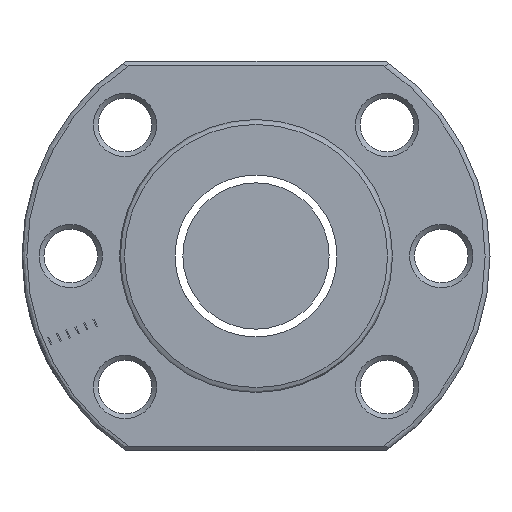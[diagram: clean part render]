
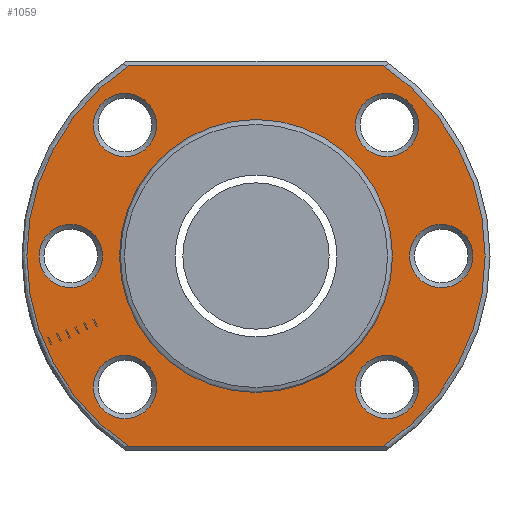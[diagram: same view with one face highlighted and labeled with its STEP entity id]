
A CAD part, left-side view. The second image highlights one B-rep face of the part: STEP entity #1059.
In plain terms, the highlighted planar face has unit normal (-1, 0, 0).
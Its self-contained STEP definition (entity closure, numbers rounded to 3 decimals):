
#19 = FACE_BOUND ( 'NONE', #1472, .T. ) ;
#69 = CARTESIAN_POINT ( 'NONE',  ( -54., 24., -19.5 ) ) ;
#76 = CARTESIAN_POINT ( 'NONE',  ( -54., 24., 19.5 ) ) ;
#84 = DIRECTION ( 'NONE',  ( 1., 0., 0. ) ) ;
#85 = DIRECTION ( 'NONE',  ( 1., 0., 0. ) ) ;
#105 = AXIS2_PLACEMENT_3D ( 'NONE', #2020, #801, #112 ) ;
#112 = DIRECTION ( 'NONE',  ( 0., 0., 1. ) ) ;
#214 = EDGE_CURVE ( 'NONE', #1115, #1213, #313, .T. ) ;
#271 = EDGE_CURVE ( 'NONE', #1978, #1978, #1612, .T. ) ;
#303 = CIRCLE ( 'NONE', #1824, 3.25 ) ;
#313 = LINE ( 'NONE', #76, #1356 ) ;
#350 = VERTEX_POINT ( 'NONE', #2100 ) ;
#367 = CARTESIAN_POINT ( 'NONE',  ( -54., 13.435, -10.185 ) ) ;
#482 = ORIENTED_EDGE ( 'NONE', *, *, #271, .T. ) ;
#502 = AXIS2_PLACEMENT_3D ( 'NONE', #2965, #520, #533 ) ;
#507 = FACE_BOUND ( 'NONE', #1380, .T. ) ;
#520 = DIRECTION ( 'NONE',  ( -1., 0., 0. ) ) ;
#533 = DIRECTION ( 'NONE',  ( 0., 0., 1. ) ) ;
#535 = EDGE_CURVE ( 'NONE', #545, #2140, #2259, .T. ) ;
#541 = DIRECTION ( 'NONE',  ( 1., 0., 0. ) ) ;
#545 = VERTEX_POINT ( 'NONE', #1718 ) ;
#555 = CARTESIAN_POINT ( 'NONE',  ( -54., -19., 0. ) ) ;
#615 = VERTEX_POINT ( 'NONE', #2039 ) ;
#652 = ORIENTED_EDGE ( 'NONE', *, *, #2919, .T. ) ;
#730 = EDGE_CURVE ( 'NONE', #1765, #1765, #2730, .T. ) ;
#756 = EDGE_LOOP ( 'NONE', ( #2323 ) ) ;
#800 = FACE_BOUND ( 'NONE', #2604, .T. ) ;
#801 = DIRECTION ( 'NONE',  ( -1., 0., 0. ) ) ;
#830 = CARTESIAN_POINT ( 'NONE',  ( -54., 19., 0. ) ) ;
#836 = CARTESIAN_POINT ( 'NONE',  ( -54., -13.435, 16.685 ) ) ;
#852 = VERTEX_POINT ( 'NONE', #2552 ) ;
#1011 = CIRCLE ( 'NONE', #2382, 3.25 ) ;
#1014 = AXIS2_PLACEMENT_3D ( 'NONE', #1239, #84, #2023 ) ;
#1039 = DIRECTION ( 'NONE',  ( 0., 1., 0. ) ) ;
#1059 = ADVANCED_FACE ( 'NONE', ( #19, #1779, #507, #2226, #2724, #800, #1235, #1224 ), #1253, .T. ) ;
#1110 = AXIS2_PLACEMENT_3D ( 'NONE', #1242, #541, #1499 ) ;
#1115 = VERTEX_POINT ( 'NONE', #1523 ) ;
#1158 = CIRCLE ( 'NONE', #2937, 23.5 ) ;
#1181 = EDGE_LOOP ( 'NONE', ( #1646, #1862, #2359, #2240 ) ) ;
#1202 = EDGE_CURVE ( 'NONE', #852, #852, #303, .T. ) ;
#1213 = VERTEX_POINT ( 'NONE', #2710 ) ;
#1224 = FACE_OUTER_BOUND ( 'NONE', #1181, .T. ) ;
#1235 = FACE_BOUND ( 'NONE', #2878, .T. ) ;
#1239 = CARTESIAN_POINT ( 'NONE',  ( -54., -13.435, 13.435 ) ) ;
#1242 = CARTESIAN_POINT ( 'NONE',  ( -54., 0., 0. ) ) ;
#1246 = ORIENTED_EDGE ( 'NONE', *, *, #1664, .T. ) ;
#1253 = PLANE ( 'NONE',  #502 ) ;
#1293 = DIRECTION ( 'NONE',  ( 0., 0., 1. ) ) ;
#1298 = DIRECTION ( 'NONE',  ( 0., 0., 1. ) ) ;
#1320 = CARTESIAN_POINT ( 'NONE',  ( -54., -13.115, -19.5 ) ) ;
#1328 = DIRECTION ( 'NONE',  ( 0., 0., 1. ) ) ;
#1353 = CARTESIAN_POINT ( 'NONE',  ( -54., 0., 0. ) ) ;
#1356 = VECTOR ( 'NONE', #1039, 1000. ) ;
#1380 = EDGE_LOOP ( 'NONE', ( #652 ) ) ;
#1409 = CIRCLE ( 'NONE', #1473, 3.25 ) ;
#1419 = CIRCLE ( 'NONE', #1014, 3.25 ) ;
#1450 = ORIENTED_EDGE ( 'NONE', *, *, #1202, .T. ) ;
#1472 = EDGE_LOOP ( 'NONE', ( #2266 ) ) ;
#1473 = AXIS2_PLACEMENT_3D ( 'NONE', #3055, #1761, #1298 ) ;
#1499 = DIRECTION ( 'NONE',  ( 0., 0., -1. ) ) ;
#1523 = CARTESIAN_POINT ( 'NONE',  ( -54., -13.115, 19.5 ) ) ;
#1534 = DIRECTION ( 'NONE',  ( 1., 0., 0. ) ) ;
#1564 = CIRCLE ( 'NONE', #105, 23.5 ) ;
#1575 = EDGE_CURVE ( 'NONE', #1213, #545, #1158, .T. ) ;
#1606 = EDGE_LOOP ( 'NONE', ( #1450 ) ) ;
#1612 = CIRCLE ( 'NONE', #1771, 3.25 ) ;
#1646 = ORIENTED_EDGE ( 'NONE', *, *, #1575, .T. ) ;
#1664 = EDGE_CURVE ( 'NONE', #350, #350, #1726, .T. ) ;
#1718 = CARTESIAN_POINT ( 'NONE',  ( -54., 13.115, -19.5 ) ) ;
#1726 = CIRCLE ( 'NONE', #1110, 14. ) ;
#1761 = DIRECTION ( 'NONE',  ( 1., 0., 0. ) ) ;
#1765 = VERTEX_POINT ( 'NONE', #367 ) ;
#1771 = AXIS2_PLACEMENT_3D ( 'NONE', #830, #1534, #1293 ) ;
#1779 = FACE_BOUND ( 'NONE', #756, .T. ) ;
#1783 = CARTESIAN_POINT ( 'NONE',  ( -54., -13.435, -10.185 ) ) ;
#1792 = DIRECTION ( 'NONE',  ( 0., 0., 1. ) ) ;
#1794 = CARTESIAN_POINT ( 'NONE',  ( -54., 13.435, -13.435 ) ) ;
#1807 = DIRECTION ( 'NONE',  ( -1., 0., 0. ) ) ;
#1824 = AXIS2_PLACEMENT_3D ( 'NONE', #2199, #2491, #2210 ) ;
#1862 = ORIENTED_EDGE ( 'NONE', *, *, #535, .T. ) ;
#1978 = VERTEX_POINT ( 'NONE', #2941 ) ;
#2020 = CARTESIAN_POINT ( 'NONE',  ( -54., 0., 0. ) ) ;
#2023 = DIRECTION ( 'NONE',  ( 0., 0., 1. ) ) ;
#2039 = CARTESIAN_POINT ( 'NONE',  ( -54., -19., 3.25 ) ) ;
#2067 = VERTEX_POINT ( 'NONE', #836 ) ;
#2100 = CARTESIAN_POINT ( 'NONE',  ( -54., 0., -14. ) ) ;
#2137 = EDGE_CURVE ( 'NONE', #615, #615, #1011, .T. ) ;
#2140 = VERTEX_POINT ( 'NONE', #1320 ) ;
#2199 = CARTESIAN_POINT ( 'NONE',  ( -54., 13.435, 13.435 ) ) ;
#2210 = DIRECTION ( 'NONE',  ( 0., 0., 1. ) ) ;
#2226 = FACE_BOUND ( 'NONE', #1606, .T. ) ;
#2240 = ORIENTED_EDGE ( 'NONE', *, *, #214, .T. ) ;
#2259 = LINE ( 'NONE', #69, #2829 ) ;
#2266 = ORIENTED_EDGE ( 'NONE', *, *, #2598, .T. ) ;
#2323 = ORIENTED_EDGE ( 'NONE', *, *, #2137, .T. ) ;
#2359 = ORIENTED_EDGE ( 'NONE', *, *, #2745, .T. ) ;
#2369 = EDGE_LOOP ( 'NONE', ( #482 ) ) ;
#2382 = AXIS2_PLACEMENT_3D ( 'NONE', #555, #85, #2729 ) ;
#2434 = DIRECTION ( 'NONE',  ( 0., -1., 0. ) ) ;
#2491 = DIRECTION ( 'NONE',  ( 1., 0., 0. ) ) ;
#2536 = DIRECTION ( 'NONE',  ( 1., 0., 0. ) ) ;
#2552 = CARTESIAN_POINT ( 'NONE',  ( -54., 13.435, 16.685 ) ) ;
#2578 = AXIS2_PLACEMENT_3D ( 'NONE', #1794, #2536, #1328 ) ;
#2598 = EDGE_CURVE ( 'NONE', #2743, #2743, #1409, .T. ) ;
#2604 = EDGE_LOOP ( 'NONE', ( #2750 ) ) ;
#2710 = CARTESIAN_POINT ( 'NONE',  ( -54., 13.115, 19.5 ) ) ;
#2724 = FACE_BOUND ( 'NONE', #2369, .T. ) ;
#2729 = DIRECTION ( 'NONE',  ( 0., 0., 1. ) ) ;
#2730 = CIRCLE ( 'NONE', #2578, 3.25 ) ;
#2743 = VERTEX_POINT ( 'NONE', #1783 ) ;
#2745 = EDGE_CURVE ( 'NONE', #2140, #1115, #1564, .T. ) ;
#2750 = ORIENTED_EDGE ( 'NONE', *, *, #730, .T. ) ;
#2829 = VECTOR ( 'NONE', #2434, 1000. ) ;
#2878 = EDGE_LOOP ( 'NONE', ( #1246 ) ) ;
#2919 = EDGE_CURVE ( 'NONE', #2067, #2067, #1419, .T. ) ;
#2937 = AXIS2_PLACEMENT_3D ( 'NONE', #1353, #1807, #1792 ) ;
#2941 = CARTESIAN_POINT ( 'NONE',  ( -54., 19., 3.25 ) ) ;
#2965 = CARTESIAN_POINT ( 'NONE',  ( -54., 24., 0. ) ) ;
#3055 = CARTESIAN_POINT ( 'NONE',  ( -54., -13.435, -13.435 ) ) ;
